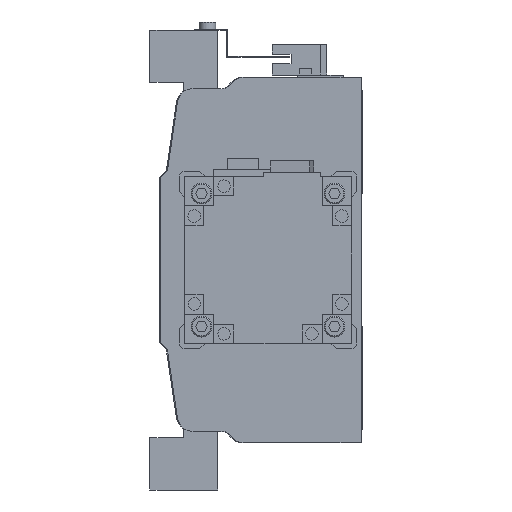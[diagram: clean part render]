
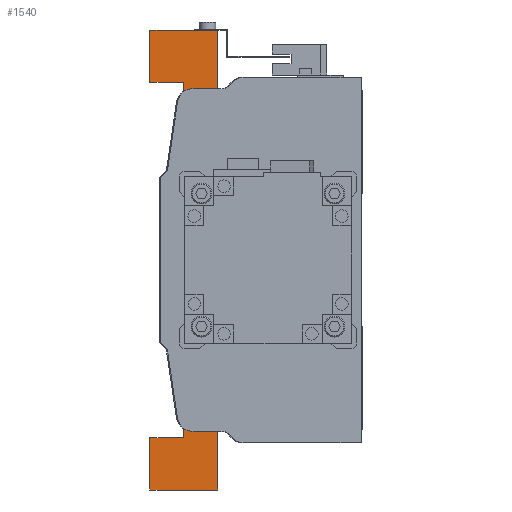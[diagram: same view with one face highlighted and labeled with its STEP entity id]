
A CAD part, left-side view. The second image highlights one B-rep face of the part: STEP entity #1540.
In plain terms, the highlighted planar face has unit normal (-1, 0, 0).
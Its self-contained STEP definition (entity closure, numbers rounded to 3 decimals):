
#1540 = ADVANCED_FACE( '', ( #3232 ), #3233, .F. );
#3232 = FACE_OUTER_BOUND( '', #5033, .T. );
#3233 = PLANE( '', #5034 );
#5033 = EDGE_LOOP( '', ( #9202, #9203, #9204, #9205, #9206, #9207, #9208, #9209, #9210, #9211, #9212, #9213, #9214, #9215, #9216, #9217 ) );
#5034 = AXIS2_PLACEMENT_3D( '', #9218, #9219, #9220 );
#9202 = ORIENTED_EDGE( '', *, *, #11474, .T. );
#9203 = ORIENTED_EDGE( '', *, *, #10615, .T. );
#9204 = ORIENTED_EDGE( '', *, *, #11612, .F. );
#9205 = ORIENTED_EDGE( '', *, *, #11478, .F. );
#9206 = ORIENTED_EDGE( '', *, *, #10642, .F. );
#9207 = ORIENTED_EDGE( '', *, *, #10292, .F. );
#9208 = ORIENTED_EDGE( '', *, *, #11134, .F. );
#9209 = ORIENTED_EDGE( '', *, *, #11568, .F. );
#9210 = ORIENTED_EDGE( '', *, *, #11499, .F. );
#9211 = ORIENTED_EDGE( '', *, *, #11034, .F. );
#9212 = ORIENTED_EDGE( '', *, *, #11831, .F. );
#9213 = ORIENTED_EDGE( '', *, *, #10815, .F. );
#9214 = ORIENTED_EDGE( '', *, *, #10548, .F. );
#9215 = ORIENTED_EDGE( '', *, *, #11885, .F. );
#9216 = ORIENTED_EDGE( '', *, *, #11947, .F. );
#9217 = ORIENTED_EDGE( '', *, *, #11948, .T. );
#9218 = CARTESIAN_POINT( '', ( -100., -56.5, 0. ) );
#9219 = DIRECTION( '', ( 1., 0., 0. ) );
#9220 = DIRECTION( '', ( 0., 0., -1. ) );
#10292 = EDGE_CURVE( '', #12186, #12188, #12189, .T. );
#10548 = EDGE_CURVE( '', #12642, #12643, #12644, .T. );
#10615 = EDGE_CURVE( '', #12757, #12758, #12759, .T. );
#10642 = EDGE_CURVE( '', #12188, #12802, #12803, .T. );
#10815 = EDGE_CURVE( '', #12643, #13093, #13094, .T. );
#11034 = EDGE_CURVE( '', #13460, #13461, #13462, .T. );
#11134 = EDGE_CURVE( '', #13613, #12186, #13614, .T. );
#11474 = EDGE_CURVE( '', #14121, #12757, #14122, .T. );
#11478 = EDGE_CURVE( '', #12802, #14127, #14128, .T. );
#11499 = EDGE_CURVE( '', #13461, #14158, #14159, .T. );
#11568 = EDGE_CURVE( '', #14158, #13613, #14244, .T. );
#11612 = EDGE_CURVE( '', #14127, #12758, #14306, .T. );
#11831 = EDGE_CURVE( '', #13093, #13460, #14589, .T. );
#11885 = EDGE_CURVE( '', #14655, #12642, #14656, .T. );
#11947 = EDGE_CURVE( '', #12931, #14655, #14733, .T. );
#11948 = EDGE_CURVE( '', #12931, #14121, #14734, .T. );
#12186 = VERTEX_POINT( '', #15012 );
#12188 = VERTEX_POINT( '', #15015 );
#12189 = LINE( '', #15016, #15017 );
#12642 = VERTEX_POINT( '', #15689 );
#12643 = VERTEX_POINT( '', #15690 );
#12644 = LINE( '', #15691, #15692 );
#12757 = VERTEX_POINT( '', #15846 );
#12758 = VERTEX_POINT( '', #15847 );
#12759 = CIRCLE( '', #15848, 31. );
#12802 = VERTEX_POINT( '', #15904 );
#12803 = LINE( '', #15905, #15906 );
#12931 = VERTEX_POINT( '', #16077 );
#13093 = VERTEX_POINT( '', #16297 );
#13094 = LINE( '', #16298, #16299 );
#13460 = VERTEX_POINT( '', #16815 );
#13461 = VERTEX_POINT( '', #16816 );
#13462 = LINE( '', #16817, #16818 );
#13613 = VERTEX_POINT( '', #17033 );
#13614 = LINE( '', #17034, #17035 );
#14121 = VERTEX_POINT( '', #17752 );
#14122 = LINE( '', #17753, #17754 );
#14127 = VERTEX_POINT( '', #17761 );
#14128 = LINE( '', #17762, #17763 );
#14158 = VERTEX_POINT( '', #17798 );
#14159 = LINE( '', #17799, #17800 );
#14244 = LINE( '', #17921, #17922 );
#14306 = LINE( '', #18010, #18011 );
#14589 = LINE( '', #18403, #18404 );
#14655 = VERTEX_POINT( '', #18492 );
#14656 = LINE( '', #18493, #18494 );
#14733 = LINE( '', #18598, #18599 );
#14734 = CIRCLE( '', #18600, 31. );
#15012 = CARTESIAN_POINT( '', ( -100., 0., 110. ) );
#15015 = CARTESIAN_POINT( '', ( -100., -32.5, 110. ) );
#15016 = CARTESIAN_POINT( '', ( -100., 0., 110. ) );
#15017 = VECTOR( '', #18871, 1000. );
#15689 = CARTESIAN_POINT( '', ( -100., -32.5, -34. ) );
#15690 = CARTESIAN_POINT( '', ( -100., -32.5, -110. ) );
#15691 = CARTESIAN_POINT( '', ( -100., -32.5, -34. ) );
#15692 = VECTOR( '', #19169, 1000. );
#15846 = CARTESIAN_POINT( '', ( -100., -32.5, 19.622 ) );
#15847 = CARTESIAN_POINT( '', ( -100., -77.5, 22.803 ) );
#15848 = AXIS2_PLACEMENT_3D( '', #19250, #19251, #19252 );
#15904 = CARTESIAN_POINT( '', ( -100., -32.5, 34. ) );
#15905 = CARTESIAN_POINT( '', ( -100., -32.5, 110. ) );
#15906 = VECTOR( '', #19284, 1000. );
#16077 = CARTESIAN_POINT( '', ( -100., -77.5, -22.803 ) );
#16297 = CARTESIAN_POINT( '', ( -100., 0., -110. ) );
#16298 = CARTESIAN_POINT( '', ( -100., -32.5, -110. ) );
#16299 = VECTOR( '', #19485, 1000. );
#16815 = CARTESIAN_POINT( '', ( -100., 0., -85. ) );
#16816 = CARTESIAN_POINT( '', ( -100., -16., -85. ) );
#16817 = CARTESIAN_POINT( '', ( -100., 0., -85. ) );
#16818 = VECTOR( '', #19744, 1000. );
#17033 = CARTESIAN_POINT( '', ( -100., 0., 85. ) );
#17034 = CARTESIAN_POINT( '', ( -100., 0., 85. ) );
#17035 = VECTOR( '', #19845, 1000. );
#17752 = CARTESIAN_POINT( '', ( -100., -32.5, -19.622 ) );
#17753 = CARTESIAN_POINT( '', ( -100., -32.5, -19.622 ) );
#17754 = VECTOR( '', #20227, 1000. );
#17761 = CARTESIAN_POINT( '', ( -100., -77.5, 34. ) );
#17762 = CARTESIAN_POINT( '', ( -100., -32.5, 34. ) );
#17763 = VECTOR( '', #20230, 1000. );
#17798 = CARTESIAN_POINT( '', ( -100., -16., 85. ) );
#17799 = CARTESIAN_POINT( '', ( -100., -16., -85. ) );
#17800 = VECTOR( '', #20260, 1000. );
#17921 = CARTESIAN_POINT( '', ( -100., -16., 85. ) );
#17922 = VECTOR( '', #20309, 1000. );
#18010 = CARTESIAN_POINT( '', ( -100., -77.5, 34. ) );
#18011 = VECTOR( '', #20351, 1000. );
#18403 = CARTESIAN_POINT( '', ( -100., 0., -110. ) );
#18404 = VECTOR( '', #20545, 1000. );
#18492 = CARTESIAN_POINT( '', ( -100., -77.5, -34. ) );
#18493 = CARTESIAN_POINT( '', ( -100., -77.5, -34. ) );
#18494 = VECTOR( '', #20592, 1000. );
#18598 = CARTESIAN_POINT( '', ( -100., -77.5, -13.242 ) );
#18599 = VECTOR( '', #20647, 1000. );
#18600 = AXIS2_PLACEMENT_3D( '', #20648, #20649, #20650 );
#18871 = DIRECTION( '', ( 0., -1., 0. ) );
#19169 = DIRECTION( '', ( 0., 0., -1. ) );
#19250 = CARTESIAN_POINT( '', ( -100., -56.5, 0. ) );
#19251 = DIRECTION( '', ( 1., 0., 0. ) );
#19252 = DIRECTION( '', ( 0., 0., -1. ) );
#19284 = DIRECTION( '', ( 0., 0., -1. ) );
#19485 = DIRECTION( '', ( 0., 1., 0. ) );
#19744 = DIRECTION( '', ( 0., -1., 0. ) );
#19845 = DIRECTION( '', ( 0., 0., 1. ) );
#20227 = DIRECTION( '', ( 0., 0., 1. ) );
#20230 = DIRECTION( '', ( 0., -1., 0. ) );
#20260 = DIRECTION( '', ( 0., 0., 1. ) );
#20309 = DIRECTION( '', ( 0., 1., 0. ) );
#20351 = DIRECTION( '', ( 0., 0., -1. ) );
#20545 = DIRECTION( '', ( 0., 0., 1. ) );
#20592 = DIRECTION( '', ( 0., 1., 0. ) );
#20647 = DIRECTION( '', ( 0., 0., -1. ) );
#20648 = CARTESIAN_POINT( '', ( -100., -56.5, 0. ) );
#20649 = DIRECTION( '', ( 1., 0., 0. ) );
#20650 = DIRECTION( '', ( 0., 0., -1. ) );
